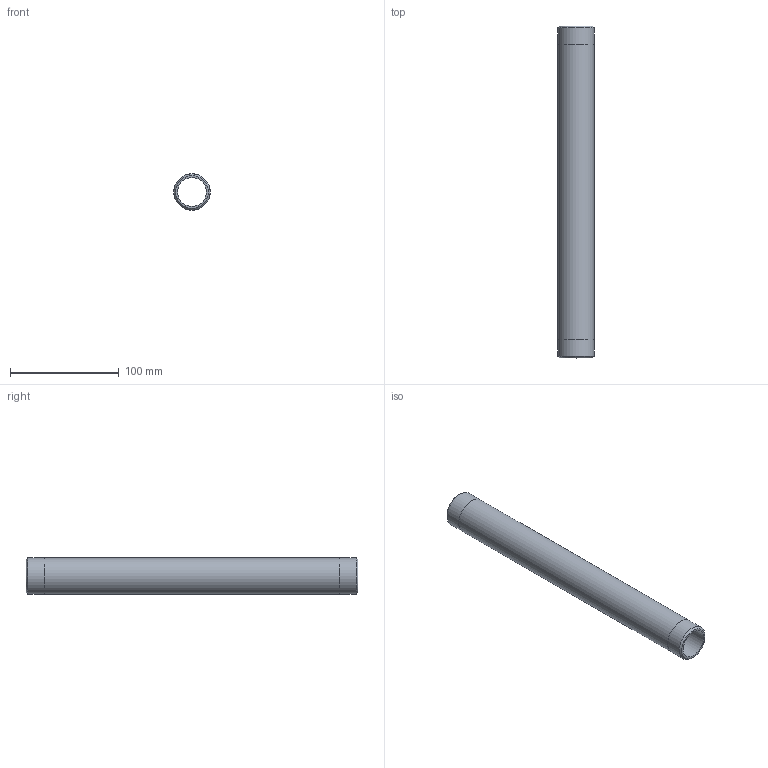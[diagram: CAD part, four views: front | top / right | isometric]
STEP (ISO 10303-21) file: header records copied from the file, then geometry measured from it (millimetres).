
FILE_DESCRIPTION(/* description */ (''),/* implementation_level */ '2;1');
FILE_NAME(/* name */ 'C:/Users/drich/Desktop/BPN1-12 v1.step',/* time_stamp */ '2020-01-03T14:17:20-06:00',/* author */ (''),/* organization */ (''),/* preprocessor_version */ 'ST-DEVELOPER v18',/* originating_system */ 'Autodesk Translation Framework v8.12.0.6',/* authorisation */ '');
FILE_SCHEMA (('AUTOMOTIVE_DESIGN { 1 0 10303 214 3 1 1 }'));
Length unit declared in the file: inch
Products named in the file (1): BPN1-12
Bounding box: 33.4 x 304.8 x 33.4 mm (x, y, z)
Volume: 96752.8 mm3; surface area: 57919.3 mm2
Topology: 1 solids, 1 shells, 10 faces, 24 edges, 18 vertices
Faces by surface type: cylinder 4, plane 4, cone 2
Full cylindrical faces by diameter (mm): 26.645 x1, 33.35 x2, 33.401 x1
Entity records: 360 total; most frequent: DIRECTION 64, CARTESIAN_POINT 53, ORIENTED_EDGE 48, AXIS2_PLACEMENT_3D 29, EDGE_CURVE 24, CIRCLE 18, VERTEX_POINT 18, EDGE_LOOP 14
